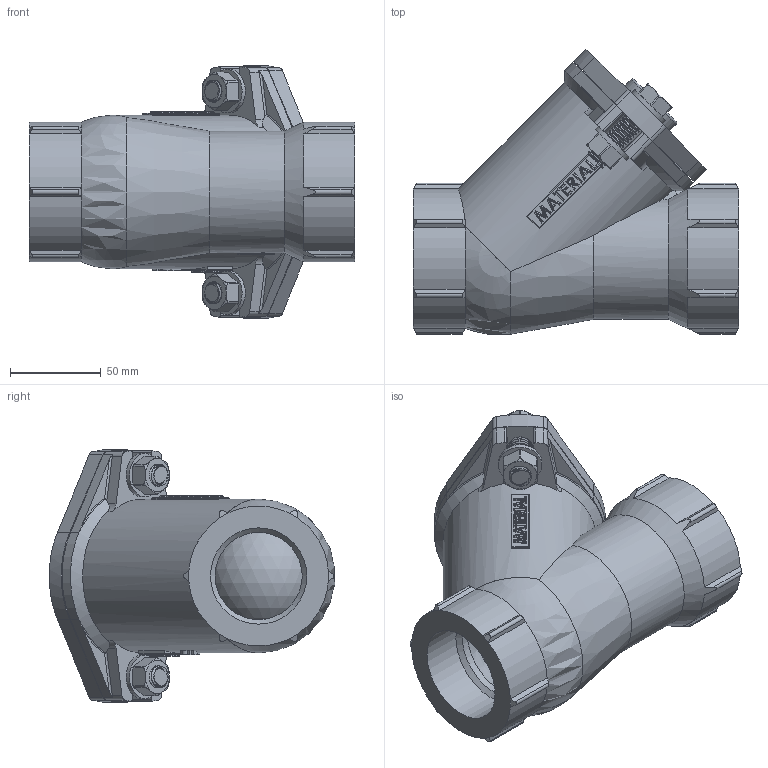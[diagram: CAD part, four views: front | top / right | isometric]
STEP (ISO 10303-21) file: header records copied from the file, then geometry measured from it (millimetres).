
FILE_DESCRIPTION(/* description */ ('Eriks item no: 11812988'),/* implementation_level */ '2;1');
FILE_NAME(/* name */ 'L:\DATA\ENG\Inventor\Econ 3D modellen\terugslagklep\2631\2631-DN50-PN16-NBR-SB.stp',/* time_stamp */ '2022-03-21T10:30:01+01:00',/* author */ ('roger.thijssen'),/* organization */ (''),/* preprocessor_version */ 'ST-DEVELOPER v18',/* originating_system */ 'Autodesk Inventor 2020',/* authorisation */ '');
FILE_SCHEMA (('AUTOMOTIVE_DESIGN { 1 0 10303 214 3 1 1 }'));
Length unit declared in the file: millimetre
Products named in the file (1): Ball check valve, 2631 - 2" BSPP - PN16 - NBR - SB
Bounding box: 179 x 157.21 x 138.73 mm (x, y, z)
Volume: 708031.2 mm3; surface area: 169633.7 mm2
Topology: 8 solids, 8 shells, 690 faces, 1813 edges, 1157 vertices
Faces by surface type: cylinder 330, plane 281, torus 31, bspline 27, cone 17, sphere 4
Full cylindrical faces by diameter (mm): 9.835 x40, 12 x42, 12.2 x2, 13 x4, 24 x4, 25 x1, 27 x1, 35 x1, 48 x1, 53 x2, 69 x1, 70 x1, 70.5 x1
Entity records: 33366 total; most frequent: CARTESIAN_POINT 16811, ORIENTED_EDGE 3606, DIRECTION 3306, EDGE_CURVE 1803, AXIS2_PLACEMENT_3D 1205, VERTEX_POINT 1157, LINE 896, VECTOR 896
